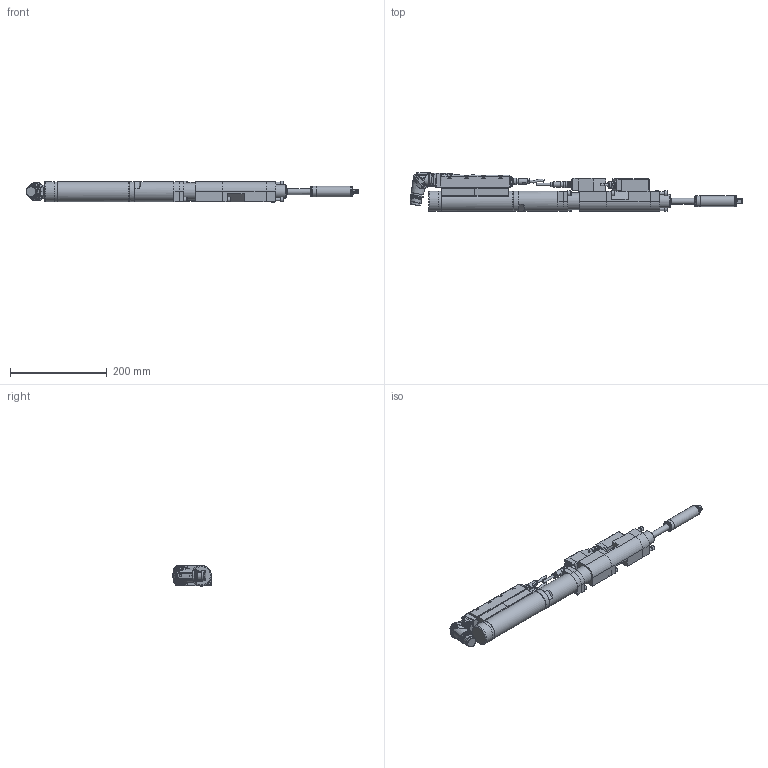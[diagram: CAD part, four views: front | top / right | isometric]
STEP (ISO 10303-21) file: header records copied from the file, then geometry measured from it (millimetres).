
FILE_DESCRIPTION (( 'STEP AP214' ), '1' );
FILE_NAME ('70082465_ESX106ZWRX65DWAX65AZX150.STEP', '2016-10-27T08:46:02', ( 'admin' ), ( '' ), 'SwSTEP 2.0', 'SolidWorks 2014', '' );
FILE_SCHEMA (( 'AUTOMOTIVE_DESIGN' ));
Length unit declared in the file: millimetre
Products named in the file (12): 70057493_4; 70057493_3; 70057493_2; 70082302; 70082331; 70082351; 70082370; 70082465_ESX106ZWRX65DWAX65AZX150; 7002230_3; 70082302_ESX106_Standard_Winkel_2_Aufnehmer; 70082293_2; 70057493_Standard_winkel
Assembly tree (12 placements, depth 4):
  70082465_ESX106ZWRX65DWAX65AZX150
    70082370
    70082351
    70082331
    70082302_ESX106_Standard_Winkel_2_Aufnehmer
      70082302
      70057493_Standard_winkel
        70057493_2
        70057493_3
        70057493_4
      70082293_2  x2
    7002230_3
Bounding box: 687.96 x 80.7 x 43.85 mm (x, y, z)
Volume: 1144816.7 mm3; surface area: 173387.7 mm2
Topology: 14 solids, 14 shells, 2860 faces, 7352 edges, 4728 vertices
Faces by surface type: plane 1323, cylinder 787, cone 396, bspline 270, torus 78, sphere 6
Full cylindrical faces by diameter (mm): 0.5 x14, 0.57 x14, 2 x3, 2.5 x7, 3 x6, 3.5 x1, 4.2 x1, 4.7 x1, 4.9 x5, 5 x15, 5.5 x12, 6 x11, 8.459 x2, 9 x1, 9.5 x1, 9.7 x1, 10 x8, 11.08 x2, 11.7 x1, 12 x1, 12.1 x1, 12.3 x2, 12.5 x2, 13 x1, 14 x5, 14.5 x2, 16 x2, 17.4 x1, 18 x1, 20 x1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
Entity records: 95968 total; most frequent: CARTESIAN_POINT 31987, ORIENTED_EDGE 13216, DIRECTION 11497, EDGE_CURVE 6608, VERTEX_POINT 4415, AXIS2_PLACEMENT_3D 4296, EDGE_LOOP 3255, FACE_OUTER_BOUND 2934
